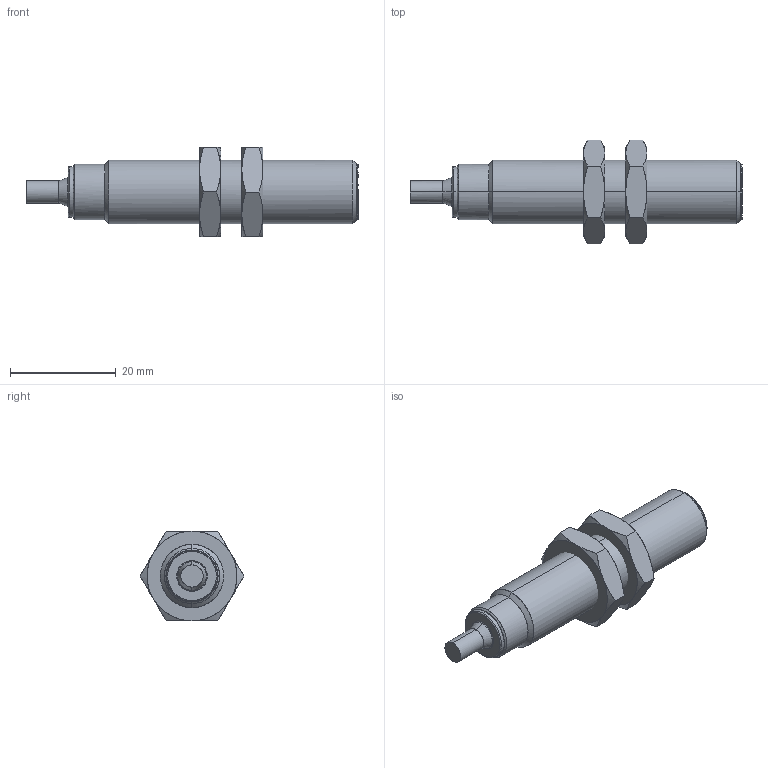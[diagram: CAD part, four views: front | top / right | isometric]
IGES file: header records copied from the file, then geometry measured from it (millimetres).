
Start section: Comment
Global section: file name: IFRR 12xx7T1_L-9.igs; native system:  By UGS Corp.; preprocessor: XPlus GENERIC/IGES 3.0; author: Author; organization: Title; date: 20100412.081119; units: millimetre
Bounding box: 62.86 x 19.63 x 17 mm (x, y, z)
Surface area: 3640.5 mm2 (no closed solid volume)
Topology: 0 solids, 0 shells, 73 faces, 314 edges, 314 vertices
Faces by surface type: bspline 73
